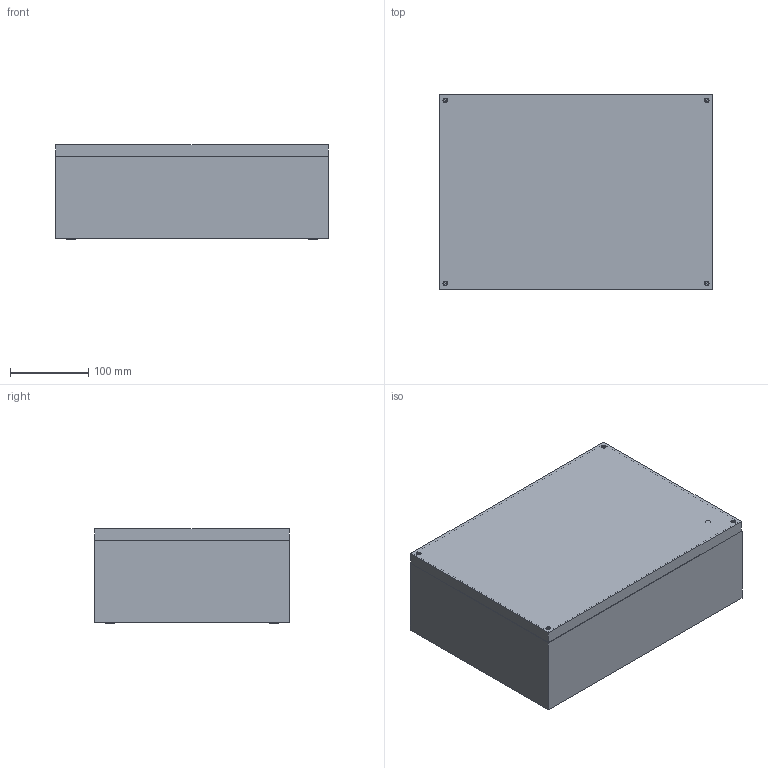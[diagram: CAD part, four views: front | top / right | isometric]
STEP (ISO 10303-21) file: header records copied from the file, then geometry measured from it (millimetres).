
FILE_DESCRIPTION(/* description */ ('Unknown'),/* implementation_level */ '2;1');
FILE_NAME(/* name */ 'SCA02503512',/* time_stamp */ '2025-02-10T08:31:17+01:00',/* author */ ('Unknown'),/* organization */ ('Unknown'),/* preprocessor_version */ 'ST-DEVELOPER v19.4',/* originating_system */ 'Solid Edge',/* authorisation */ 'Unknown');
FILE_SCHEMA (('CONFIG_CONTROL_DESIGN'));
Length unit declared in the file: millimetre
Products named in the file (10): SCA02503512; S000X000.21; S0000000.17; AE00511.01; S0000000.78; S0000000.02; S000X000.23_oa_0; S0000000.18; AE00407.01; S0000000.04
Assembly tree (18 placements, depth 3):
  SCA02503512
    S000X000.21
      S0000000.17
      AE00511.01  x4
    S0000000.78  x4
    S0000000.02  x4
    S000X000.23_oa_0
      S0000000.18
      AE00407.01
    S0000000.04
Bounding box: 350 x 250 x 121 mm (x, y, z)
Volume: 622355.4 mm3; surface area: 664678.3 mm2
Topology: 15 solids, 15 shells, 345 faces, 807 edges, 515 vertices
Faces by surface type: plane 193, cylinder 70, cone 69, torus 13
Full cylindrical faces by diameter (mm): 4.2 x8, 5 x5, 6 x4, 6.5 x1, 6.647 x4, 7 x4, 8 x4, 8.25 x4, 11 x4, 12 x4
Entity records: 4296 total; most frequent: CARTESIAN_POINT 682, DIRECTION 602, ORIENTED_EDGE 512, EDGE_CURVE 256, AXIS2_PLACEMENT_3D 225, FACE_BOUND 189, EDGE_LOOP 188, VERTEX_POINT 185
